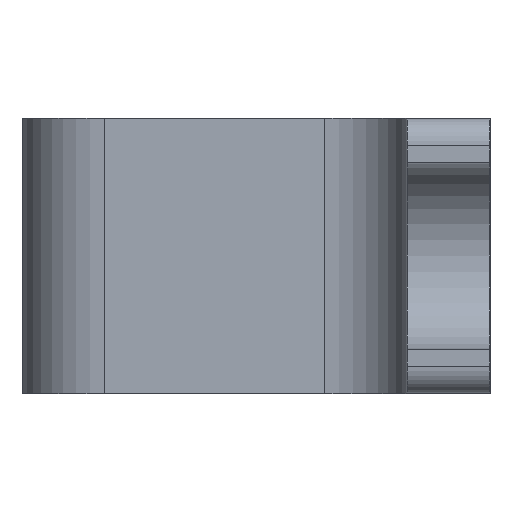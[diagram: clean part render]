
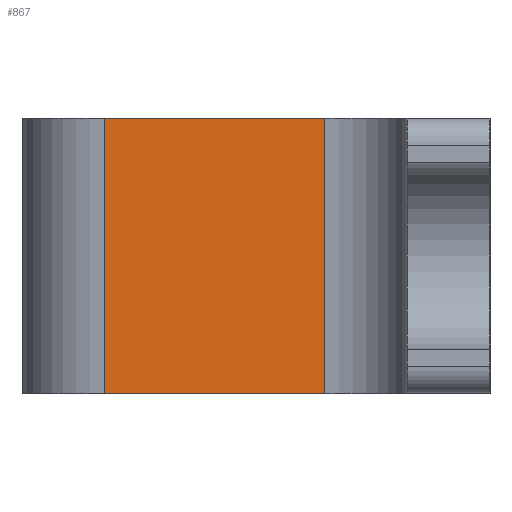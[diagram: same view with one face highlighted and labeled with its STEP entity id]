
A CAD part, left-side view. The second image highlights one B-rep face of the part: STEP entity #867.
In plain terms, the highlighted planar face has unit normal (-1, 0, 0).
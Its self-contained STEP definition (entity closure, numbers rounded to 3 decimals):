
#12 = DIRECTION ( 'NONE',  ( 0., 0., 1. ) ) ;
#52 = ORIENTED_EDGE ( 'NONE', *, *, #146, .T. ) ;
#83 = CARTESIAN_POINT ( 'NONE',  ( -27.5, 3., 5. ) ) ;
#107 = ORIENTED_EDGE ( 'NONE', *, *, #405, .F. ) ;
#111 = EDGE_CURVE ( 'NONE', #582, #268, #1181, .T. ) ;
#146 = EDGE_CURVE ( 'NONE', #268, #994, #1011, .T. ) ;
#153 = LINE ( 'NONE', #1034, #212 ) ;
#172 = DIRECTION ( 'NONE',  ( 0., -1., 0. ) ) ;
#212 = VECTOR ( 'NONE', #1133, 1000. ) ;
#268 = VERTEX_POINT ( 'NONE', #666 ) ;
#311 = AXIS2_PLACEMENT_3D ( 'NONE', #387, #1025, #851 ) ;
#387 = CARTESIAN_POINT ( 'NONE',  ( -27.5, 1.5, 5. ) ) ;
#405 = EDGE_CURVE ( 'NONE', #933, #994, #153, .T. ) ;
#457 = CARTESIAN_POINT ( 'NONE',  ( -27.5, 1.5, 0. ) ) ;
#484 = CARTESIAN_POINT ( 'NONE',  ( -27.5, 7., 5. ) ) ;
#497 = FACE_OUTER_BOUND ( 'NONE', #1081, .T. ) ;
#573 = CARTESIAN_POINT ( 'NONE',  ( -27.5, 7., 5. ) ) ;
#582 = VERTEX_POINT ( 'NONE', #1099 ) ;
#666 = CARTESIAN_POINT ( 'NONE',  ( -27.5, 3., 0. ) ) ;
#694 = CARTESIAN_POINT ( 'NONE',  ( -27.5, 3., 5. ) ) ;
#780 = PLANE ( 'NONE',  #311 ) ;
#813 = VECTOR ( 'NONE', #172, 1000. ) ;
#827 = EDGE_CURVE ( 'NONE', #933, #582, #1117, .T. ) ;
#851 = DIRECTION ( 'NONE',  ( 0., 0., -1. ) ) ;
#867 = ADVANCED_FACE ( 'NONE', ( #497 ), #780, .F. ) ;
#898 = ORIENTED_EDGE ( 'NONE', *, *, #827, .T. ) ;
#933 = VERTEX_POINT ( 'NONE', #573 ) ;
#957 = DIRECTION ( 'NONE',  ( 0., 0., -1. ) ) ;
#994 = VERTEX_POINT ( 'NONE', #694 ) ;
#1011 = LINE ( 'NONE', #83, #1021 ) ;
#1012 = ORIENTED_EDGE ( 'NONE', *, *, #111, .T. ) ;
#1021 = VECTOR ( 'NONE', #12, 1000. ) ;
#1025 = DIRECTION ( 'NONE',  ( 1., 0., 0. ) ) ;
#1034 = CARTESIAN_POINT ( 'NONE',  ( -27.5, 1.5, 5. ) ) ;
#1081 = EDGE_LOOP ( 'NONE', ( #1012, #52, #107, #898 ) ) ;
#1099 = CARTESIAN_POINT ( 'NONE',  ( -27.5, 7., 0. ) ) ;
#1102 = VECTOR ( 'NONE', #957, 1000. ) ;
#1117 = LINE ( 'NONE', #484, #1102 ) ;
#1133 = DIRECTION ( 'NONE',  ( 0., -1., 0. ) ) ;
#1181 = LINE ( 'NONE', #457, #813 ) ;
